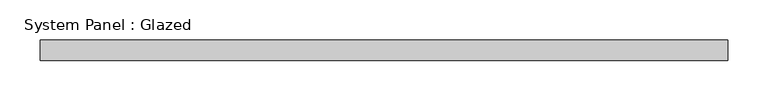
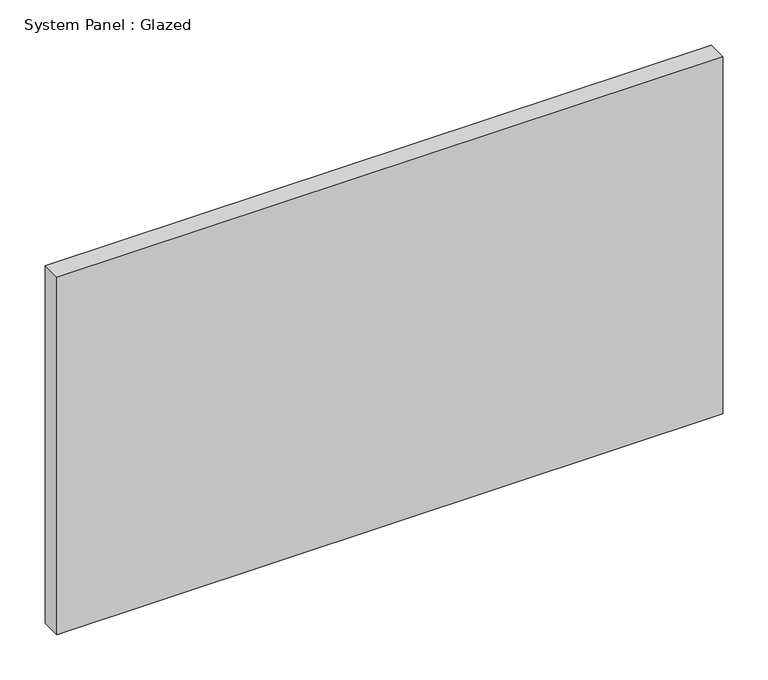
"""IFC4 building model written with IfcOpenShell, lengths in millimetres: plate geometry, System Panel : Glazed."""

from ifc_helpers import new_model, si_unit, origin, origin_with_axes, place, context, project, spatial, polyline, outline, extrude, source, transform, mapped, element, save


def system_panel_glazed_2d85ec54(model_context):
    return source(origin(), model_context, "Body", "SweptSolid", [
        extrude(outline(polyline([(425.45, -44.45), (-425.45, -44.45), (-425.45, -19.05), (425.45, -19.05), (425.45, -44.45)])), origin_with_axes(), (0.0, 0.0, 1.0), 482.6),
    ])


if __name__ == "__main__":
    model = new_model("IFC4")
    model_context = context("Model", 3, world=origin())
    ifc_project = project(units=[si_unit("LENGTHUNIT", "METRE", prefix="MILLI")], contexts=[model_context])
    site = spatial("IfcSite", under=ifc_project)
    building = spatial("IfcBuilding", under=site)
    placement = place(None, origin())
    system_panel_glazed_shape = system_panel_glazed_2d85ec54(model_context)
    element("IfcPlate", 1, ObjectType="System Panel : Glazed", at=placement, inside=building, context=model_context, shape_type="MappedRepresentation", body=[
        mapped(system_panel_glazed_shape, transform((0.0, 0.0, 0.0), x_axis=(1.0, 0.0, 0.0), y_axis=(0.0, 1.0, 0.0), z_axis=(0.0, 0.0, 1.0))),
    ])
    save(model, "model.ifc")
